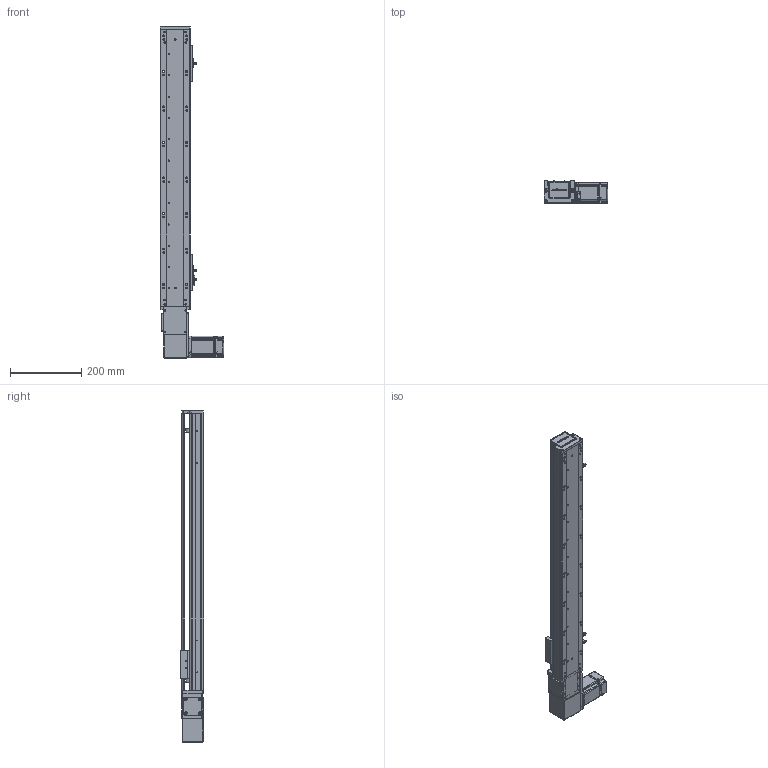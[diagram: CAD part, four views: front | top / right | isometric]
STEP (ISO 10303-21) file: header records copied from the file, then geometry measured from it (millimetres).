
FILE_DESCRIPTION (( 'STEP AP203' ), '1' );
FILE_NAME ('RY80-T-300-RK.SLDASM_600.step', '2021-03-01T02:06:44', ( '盈信电脑' ), ( '东莞市道滘镇水果街19号' ), 'SwSTEP 2.0', 'SolidWorks 2012', '' );
FILE_SCHEMA (( 'CONFIG_CONTROL_DESIGN' ));
Products named in the file (20): RY80-T-M4蹟翐; RY80-T粣創揤踡輸; RY80-T翋肮祭謫裔啣; RY80-T肮祭湍揤輸2; RY80-T-翋肮祭謫釱; RY80-T肮祭湍揤輸1; RY80-T萇儂假蚾啣; 1; RY80俋离覜茼え; 侂狟200W萇儂; 覜茼ん672; RY80-T綴裔啣; 672嫖萇羲壽假蚾釱; RY80-T-300-RK倰第奻裔啣_600; RY80-T-300-RK倰第菁釱_600; RY80-T肮祭謫臏賑輸; RY80-T-300-RK.SLDASM_600; RY100-T粣創揤踡裔; 滅袉蝶18-10; RY80-T肮祭謫俋欶
Assembly tree (25 placements, depth 3):
  RY80-T-300-RK.SLDASM_600
    RY80-T-300-RK倰第菁釱_600
    RY80-T肮祭謫臏賑輸
    RY80-T-300-RK倰第奻裔啣_600
    RY80-T綴裔啣
    672嫖萇羲壽假蚾釱  x2
    覜茼ん672  x3
    RY80俋离覜茼え
    侂狟200W萇儂
      1
    RY80-T-翋肮祭謫釱
    RY80-T萇儂假蚾啣
    RY80-T肮祭湍揤輸1
    RY80-T肮祭湍揤輸2
    RY80-T粣創揤踡輸
    RY80-T-M4蹟翐  x2
    RY80-T翋肮祭謫裔啣  x2
    RY80-T肮祭謫俋欶
    滅袉蝶18-10  x2
    RY100-T粣創揤踡裔
Bounding box: 180 x 65 x 935 mm (x, y, z)
Volume: 1671632.4 mm3; surface area: 683427.5 mm2
Topology: 24 solids, 24 shells, 2516 faces, 6937 edges, 4509 vertices
Faces by surface type: plane 1342, cylinder 969, cone 149, bspline 56
Entity records: 79418 total; most frequent: CARTESIAN_POINT 19419, ORIENTED_EDGE 12318, DIRECTION 11550, EDGE_CURVE 6159, VERTEX_POINT 4050, AXIS2_PLACEMENT_3D 3893, VECTOR 3764, LINE 3764
